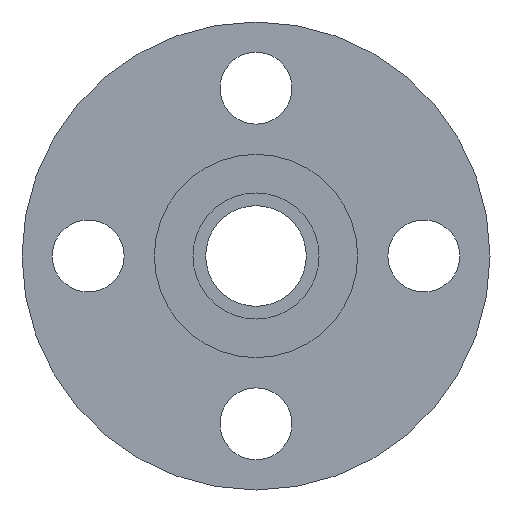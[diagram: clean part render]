
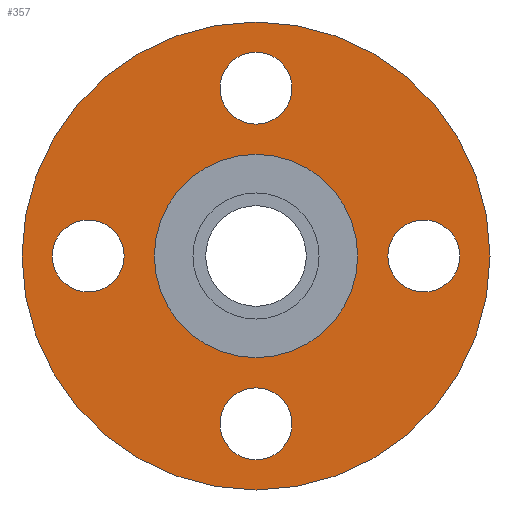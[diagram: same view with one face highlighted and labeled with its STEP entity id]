
A CAD part, left-side view. The second image highlights one B-rep face of the part: STEP entity #357.
In plain terms, the highlighted planar face has unit normal (-1, 0, 0).
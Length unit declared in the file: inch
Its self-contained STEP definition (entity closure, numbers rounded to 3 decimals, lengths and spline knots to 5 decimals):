
#14=FACE_BOUND('',#60,.T.);
#15=FACE_BOUND('',#61,.T.);
#16=FACE_BOUND('',#62,.T.);
#17=FACE_BOUND('',#63,.T.);
#18=FACE_BOUND('',#64,.T.);
#29=PLANE('',#407);
#41=FACE_OUTER_BOUND('',#59,.T.);
#59=EDGE_LOOP('',(#250,#251));
#60=EDGE_LOOP('',(#252));
#61=EDGE_LOOP('',(#253));
#62=EDGE_LOOP('',(#254));
#63=EDGE_LOOP('',(#255));
#64=EDGE_LOOP('',(#256,#257));
#110=CIRCLE('',#392,0.375);
#112=CIRCLE('',#395,0.375);
#114=CIRCLE('',#398,0.375);
#116=CIRCLE('',#401,0.375);
#117=CIRCLE('',#403,2.44);
#118=CIRCLE('',#404,2.44);
#121=CIRCLE('',#408,1.06);
#122=CIRCLE('',#409,1.06);
#146=VERTEX_POINT('',#569);
#148=VERTEX_POINT('',#575);
#150=VERTEX_POINT('',#581);
#152=VERTEX_POINT('',#587);
#153=VERTEX_POINT('',#591);
#154=VERTEX_POINT('',#592);
#157=VERTEX_POINT('',#601);
#158=VERTEX_POINT('',#602);
#183=EDGE_CURVE('',#146,#146,#110,.T.);
#186=EDGE_CURVE('',#148,#148,#112,.T.);
#189=EDGE_CURVE('',#150,#150,#114,.T.);
#192=EDGE_CURVE('',#152,#152,#116,.T.);
#193=EDGE_CURVE('',#153,#154,#117,.T.);
#194=EDGE_CURVE('',#154,#153,#118,.T.);
#198=EDGE_CURVE('',#157,#158,#121,.T.);
#199=EDGE_CURVE('',#158,#157,#122,.T.);
#250=ORIENTED_EDGE('',*,*,#193,.T.);
#251=ORIENTED_EDGE('',*,*,#194,.T.);
#252=ORIENTED_EDGE('',*,*,#183,.T.);
#253=ORIENTED_EDGE('',*,*,#186,.T.);
#254=ORIENTED_EDGE('',*,*,#189,.T.);
#255=ORIENTED_EDGE('',*,*,#192,.T.);
#256=ORIENTED_EDGE('',*,*,#198,.F.);
#257=ORIENTED_EDGE('',*,*,#199,.F.);
#357=ADVANCED_FACE('',(#41,#14,#15,#16,#17,#18),#29,.T.);
#392=AXIS2_PLACEMENT_3D('',#571,#451,#452);
#395=AXIS2_PLACEMENT_3D('',#577,#458,#459);
#398=AXIS2_PLACEMENT_3D('',#583,#465,#466);
#401=AXIS2_PLACEMENT_3D('',#589,#472,#473);
#403=AXIS2_PLACEMENT_3D('',#593,#476,#477);
#404=AXIS2_PLACEMENT_3D('',#594,#478,#479);
#407=AXIS2_PLACEMENT_3D('',#600,#485,#486);
#408=AXIS2_PLACEMENT_3D('',#603,#487,#488);
#409=AXIS2_PLACEMENT_3D('',#604,#489,#490);
#451=DIRECTION('center_axis',(1.,0.,0.));
#452=DIRECTION('ref_axis',(0.,-1.,0.));
#458=DIRECTION('center_axis',(1.,0.,0.));
#459=DIRECTION('ref_axis',(0.,0.,-1.));
#465=DIRECTION('center_axis',(1.,0.,0.));
#466=DIRECTION('ref_axis',(0.,1.,0.));
#472=DIRECTION('center_axis',(1.,0.,0.));
#473=DIRECTION('ref_axis',(0.,0.,1.));
#476=DIRECTION('center_axis',(-1.,0.,0.));
#477=DIRECTION('ref_axis',(0.,0.,1.));
#478=DIRECTION('center_axis',(-1.,0.,0.));
#479=DIRECTION('ref_axis',(0.,0.,1.));
#485=DIRECTION('center_axis',(-1.,0.,0.));
#486=DIRECTION('ref_axis',(0.,0.,1.));
#487=DIRECTION('center_axis',(-1.,0.,0.));
#488=DIRECTION('ref_axis',(0.,0.,1.));
#489=DIRECTION('center_axis',(-1.,0.,0.));
#490=DIRECTION('ref_axis',(0.,0.,1.));
#569=CARTESIAN_POINT('',(-0.69,2.125,0.));
#571=CARTESIAN_POINT('Origin',(-0.69,1.75,0.));
#575=CARTESIAN_POINT('',(-0.69,0.,2.125));
#577=CARTESIAN_POINT('Origin',(-0.69,0.,1.75));
#581=CARTESIAN_POINT('',(-0.69,-2.125,0.));
#583=CARTESIAN_POINT('Origin',(-0.69,-1.75,0.));
#587=CARTESIAN_POINT('',(-0.69,0.,-2.125));
#589=CARTESIAN_POINT('Origin',(-0.69,0.,-1.75));
#591=CARTESIAN_POINT('',(-0.69,0.,2.44));
#592=CARTESIAN_POINT('',(-0.69,0.,-2.44));
#593=CARTESIAN_POINT('Origin',(-0.69,0.,0.));
#594=CARTESIAN_POINT('Origin',(-0.69,0.,0.));
#600=CARTESIAN_POINT('Origin',(-0.69,0.,1.75));
#601=CARTESIAN_POINT('',(-0.69,0.,1.06));
#602=CARTESIAN_POINT('',(-0.69,0.,-1.06));
#603=CARTESIAN_POINT('Origin',(-0.69,0.,0.));
#604=CARTESIAN_POINT('Origin',(-0.69,0.,0.));
